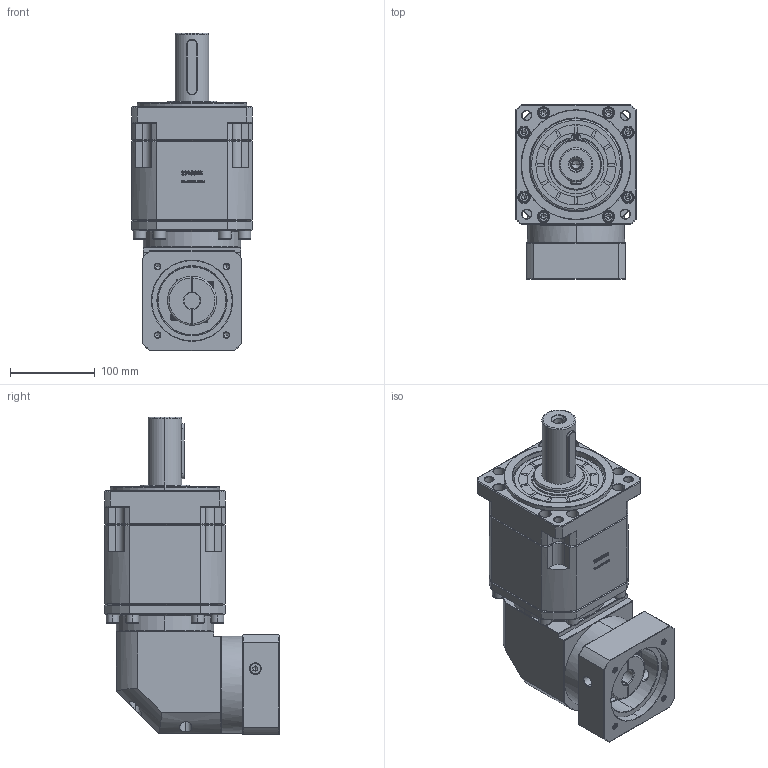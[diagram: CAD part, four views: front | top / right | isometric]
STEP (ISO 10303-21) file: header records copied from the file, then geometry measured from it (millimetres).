
FILE_DESCRIPTION (( 'STEP AP214' ), '1' );
FILE_NAME ('ZBR142A-D40-L3-19-95-115-M8.step', '2023-03-20T04:12:40', ( '' ), ( '' ), 'SwSTEP 2.0', 'SolidWorks 2016', '' );
FILE_SCHEMA (( 'AUTOMOTIVE_DESIGN' ));
Length unit declared in the file: millimetre
Products named in the file (1): ZBR142A-D40-L3-19-95-115-M8
Bounding box: 142 x 205.9 x 375.2 mm (x, y, z)
Volume: 5146845.4 mm3; surface area: 337584.5 mm2
Topology: 6 solids, 6 shells, 3190 faces, 8420 edges, 5398 vertices
Faces by surface type: plane 1652, bspline 592, cylinder 502, cone 398, torus 46
Entity records: 170758 total; most frequent: CARTESIAN_POINT 61421, ORIENTED_EDGE 16732, DIRECTION 13097, EDGE_CURVE 8366, VECTOR 5589, LINE 5589, VERTEX_POINT 5398, AXIS2_PLACEMENT_3D 3754
